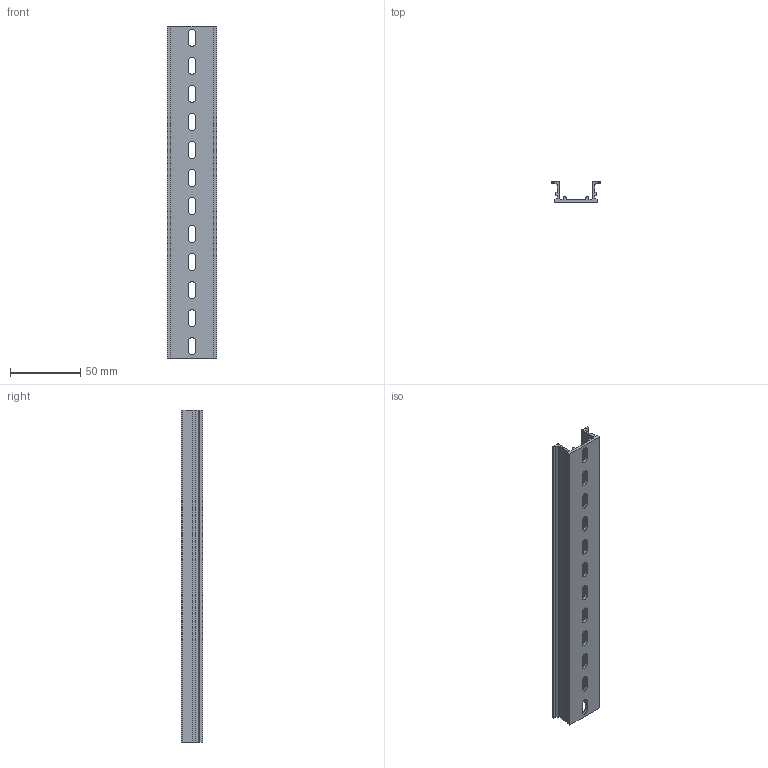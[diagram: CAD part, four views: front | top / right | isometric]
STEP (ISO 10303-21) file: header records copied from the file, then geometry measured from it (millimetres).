
FILE_DESCRIPTION(/* description */ (''),/* implementation_level */ '2;1');
FILE_NAME(/* name */ '22649-(TKB KD-12)HP 3D.stp',/* time_stamp */ '2024-12-05T13:38:14+09:00',/* author */ ('usercadg104'),/* organization */ (''),/* preprocessor_version */ 'ST-DEVELOPER v19.2',/* originating_system */ 'Autodesk Inventor 2023',/* authorisation */ '');
FILE_SCHEMA (('CONFIG_CONTROL_DESIGN'));
Length unit declared in the file: millimetre
Products named in the file (1): TKB KD-3(林)
Bounding box: 35 x 15 x 237 mm (x, y, z)
Volume: 27716.6 mm3; surface area: 32185.1 mm2
Topology: 1 solids, 1 shells, 88 faces, 258 edges, 172 vertices
Faces by surface type: plane 60, cylinder 28
Entity records: 3009 total; most frequent: CARTESIAN_POINT 519, ORIENTED_EDGE 516, DIRECTION 492, EDGE_CURVE 258, LINE 202, VECTOR 202, VERTEX_POINT 172, AXIS2_PLACEMENT_3D 145
